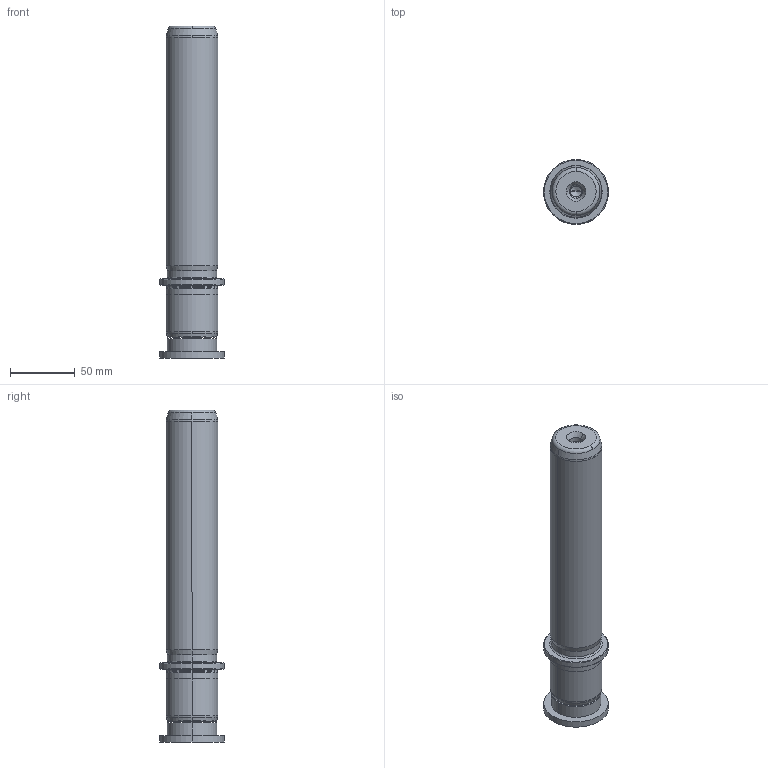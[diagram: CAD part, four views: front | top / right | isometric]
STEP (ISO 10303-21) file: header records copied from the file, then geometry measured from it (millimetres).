
FILE_DESCRIPTION((''),'2;1');
FILE_NAME('P22_040_200.stp','2009-02-16T10:20:47',(''),(''),'Mechanical Desktop 2009','Mechanical Desktop 2009',', , ');
FILE_SCHEMA(('CONFIG_CONTROL_DESIGN'));
Length unit declared in the file: millimetre
Products named in the file (2): Product; blmdl1
Assembly tree (1 placements, depth 2):
  Product
    blmdl1
Bounding box: 50 x 50 x 256 mm (x, y, z)
Volume: 320304.5 mm3; surface area: 43579 mm2
Topology: 3 solids, 3 shells, 99 faces, 237 edges, 149 vertices
Faces by surface type: cylinder 32, cone 28, plane 19, torus 10, bspline 10
Entity records: 3419 total; most frequent: CARTESIAN_POINT 923, DIRECTION 570, ORIENTED_EDGE 466, AXIS2_PLACEMENT_3D 246, EDGE_CURVE 233, CIRCLE 155, VERTEX_POINT 149, EDGE_LOOP 110
